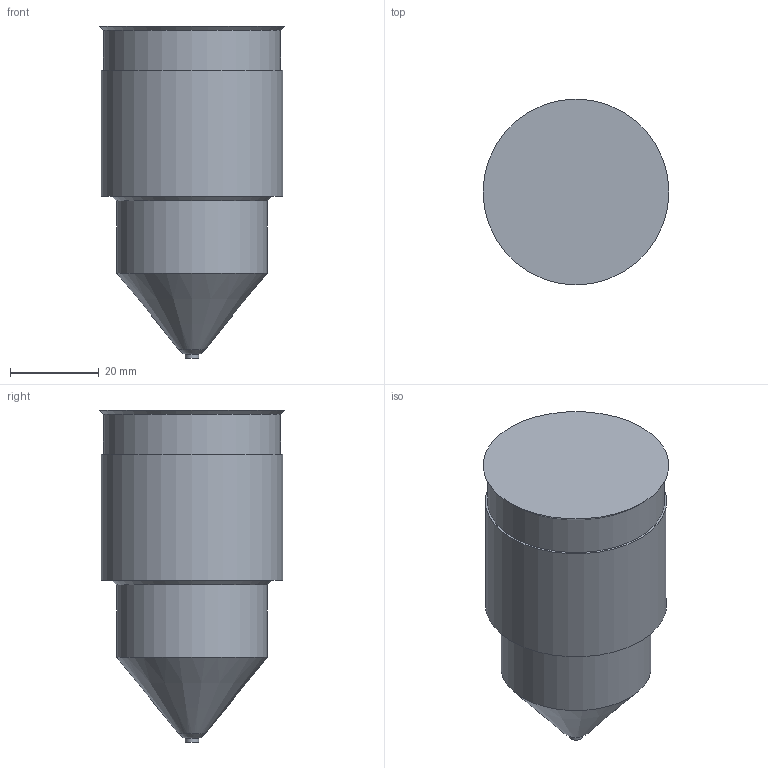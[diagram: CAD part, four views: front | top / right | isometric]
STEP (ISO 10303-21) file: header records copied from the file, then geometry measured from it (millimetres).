
FILE_DESCRIPTION(('STEP AP214'),'1');
FILE_NAME('SEDE IPM1000-A.stp','2018-06-13T06:40:28',(' '),(' '),'Spatial InterOp 3D',' ',' ');
FILE_SCHEMA(('AUTOMOTIVE_DESIGN { 1 0 10303 214 1 1 1 1 }'));
Length unit declared in the file: millimetre
Products named in the file (1): 1
Bounding box: 42 x 42 x 75 mm (x, y, z)
Volume: 72416.9 mm3; surface area: 10077.5 mm2
Topology: 1 solids, 1 shells, 12 faces, 19 edges, 11 vertices
Faces by surface type: cylinder 4, plane 4, cone 3, revolution 1
Full cylindrical faces by diameter (mm): 3 x1, 34 x1, 40 x1, 41 x1
Entity records: 350 total; most frequent: DIRECTION 47, CARTESIAN_POINT 39, AXIS2_PLACEMENT_3D 23, EDGE_LOOP 22, ORIENTED_EDGE 22, FACE_OUTER_BOUND 17, STYLED_ITEM 12, PRESENTATION_STYLE_ASSIGNMENT 12
